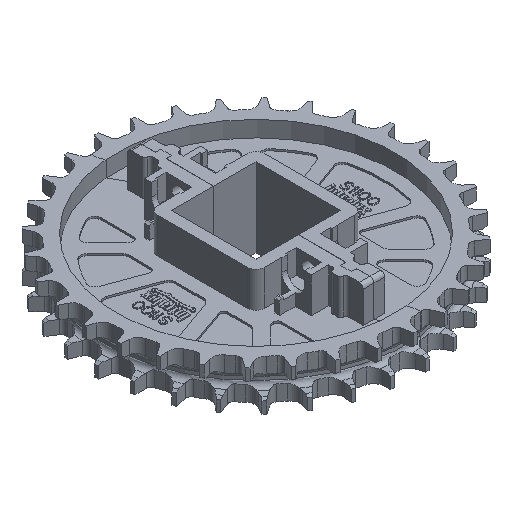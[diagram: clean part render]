
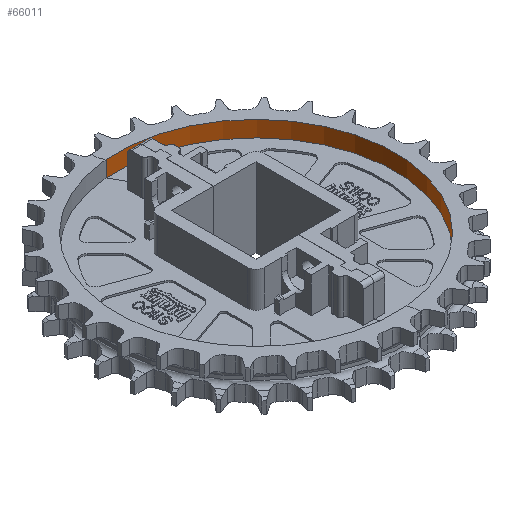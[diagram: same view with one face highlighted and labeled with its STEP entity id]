
A CAD part, isometric view. The second image highlights one B-rep face of the part: STEP entity #66011.
In plain terms, the highlighted cylindrical face has radius 66.205 mm (diameter 132.41 mm), a partial arc.
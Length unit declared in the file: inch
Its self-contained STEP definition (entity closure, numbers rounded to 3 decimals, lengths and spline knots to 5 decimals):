
#42840=DIRECTION('',(0.,0.,1.));
#42841=VECTOR('',#42840,0.3);
#42842=CARTESIAN_POINT('',(-0.21224,2.59783,0.075));
#42843=LINE('',#42842,#42841);
#44380=DIRECTION('',(0.,0.,1.));
#44381=VECTOR('',#44380,0.3);
#44382=CARTESIAN_POINT('',(0.21224,-2.59783,0.075));
#44383=LINE('',#44382,#44381);
#44398=CARTESIAN_POINT('',(0.,0.,0.075));
#44399=DIRECTION('',(0.,0.,1.));
#44400=DIRECTION('',(-0.081,0.997,0.));
#44401=AXIS2_PLACEMENT_3D('',#44398,#44399,#44400);
#44403=CARTESIAN_POINT('',(0.,0.,0.375));
#44404=DIRECTION('',(0.,0.,-1.));
#44405=DIRECTION('',(0.081,-0.997,0.));
#44406=AXIS2_PLACEMENT_3D('',#44403,#44404,#44405);
#57792=CARTESIAN_POINT('',(-0.21224,2.59783,0.075));
#57793=VERTEX_POINT('',#57792);
#57794=CARTESIAN_POINT('',(0.21224,-2.59783,0.075));
#57795=VERTEX_POINT('',#57794);
#61950=CARTESIAN_POINT('',(-0.21224,2.59783,0.375));
#61951=VERTEX_POINT('',#61950);
#61952=CARTESIAN_POINT('',(0.21224,-2.59783,0.375));
#61953=VERTEX_POINT('',#61952);
#66000=CARTESIAN_POINT('',(0.,0.,1.3332));
#66001=DIRECTION('',(0.,0.,1.));
#66002=DIRECTION('',(1.,0.,0.));
#66003=AXIS2_PLACEMENT_3D('',#66000,#66001,#66002);
#66004=CYLINDRICAL_SURFACE('',#66003,2.60649);
#66005=ORIENTED_EDGE('',*,*,#65760,.T.);
#66006=ORIENTED_EDGE('',*,*,#65981,.T.);
#66007=ORIENTED_EDGE('',*,*,#64267,.T.);
#66008=ORIENTED_EDGE('',*,*,#64459,.F.);
#66009=EDGE_LOOP('',(#66005,#66006,#66007,#66008));
#66010=FACE_OUTER_BOUND('',#66009,.F.);
#66011=ADVANCED_FACE('',(#66010),#66004,.F.);
#44402=CIRCLE('',#44401,2.60649);
#44407=CIRCLE('',#44406,2.60649);
#64267=EDGE_CURVE('',#61953,#61951,#44407,.T.);
#64459=EDGE_CURVE('',#57793,#61951,#42843,.T.);
#65760=EDGE_CURVE('',#57793,#57795,#44402,.T.);
#65981=EDGE_CURVE('',#57795,#61953,#44383,.T.);
